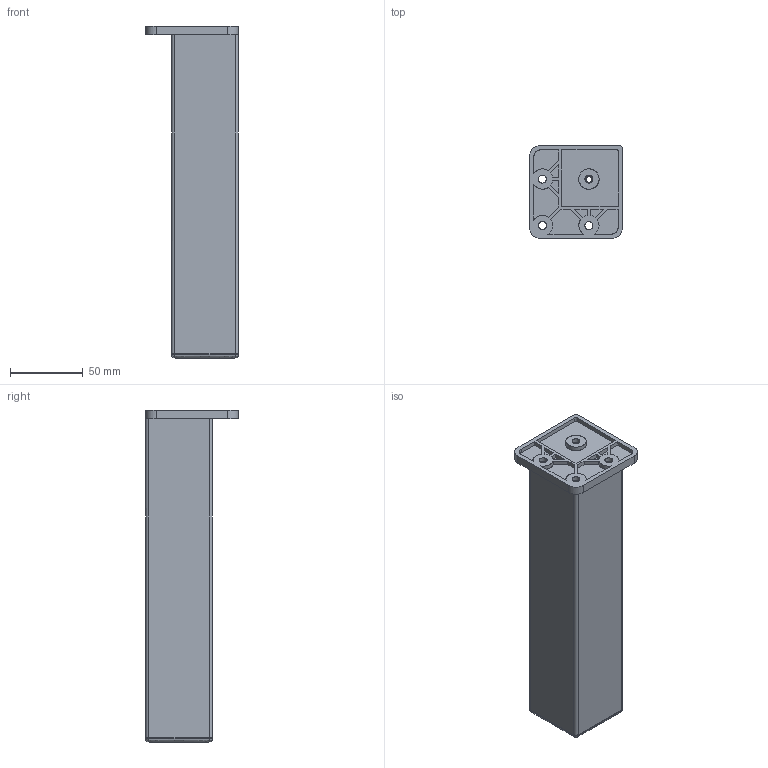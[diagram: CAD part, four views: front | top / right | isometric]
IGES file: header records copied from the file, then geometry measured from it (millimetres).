
Start section: C
Global section: file name: 8110-228.igs; native system: By Siemens PLM Incorporated; preprocessor: XPlus GENERIC/IGES 16.0.42; author: Author; organization: Title; date: 20231128.102314; units: millimetre
Bounding box: 64 x 64 x 228.6 mm (x, y, z)
Surface area: 109004.6 mm2 (no closed solid volume)
Topology: 0 solids, 0 shells, 262 faces, 1404 edges, 1392 vertices
Faces by surface type: bspline 262
